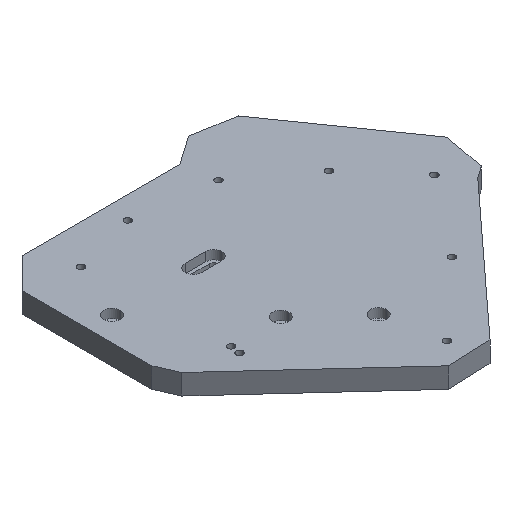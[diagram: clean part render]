
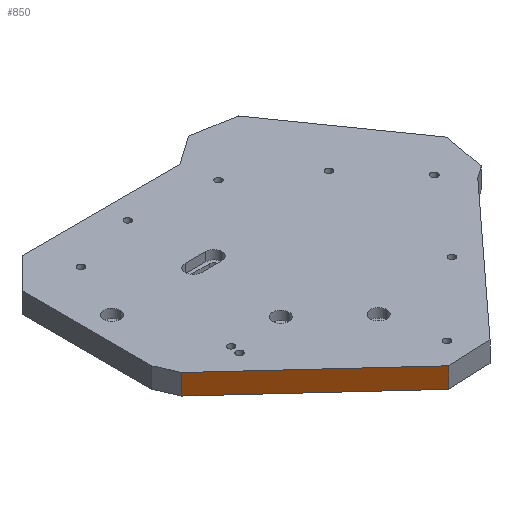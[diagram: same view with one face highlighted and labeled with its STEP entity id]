
A CAD part, isometric view. The second image highlights one B-rep face of the part: STEP entity #850.
In plain terms, the highlighted planar face has unit normal (-0.676, -0.737, 0).
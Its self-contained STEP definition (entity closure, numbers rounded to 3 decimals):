
#15 = VERTEX_POINT ( 'NONE', #461 ) ;
#60 = EDGE_CURVE ( 'NONE', #15, #704, #2336, .T. ) ;
#275 = CARTESIAN_POINT ( 'NONE',  ( -72.457, -27.65, 10. ) ) ;
#339 = AXIS2_PLACEMENT_3D ( 'NONE', #275, #464, #934 ) ;
#461 = CARTESIAN_POINT ( 'NONE',  ( -72.457, -27.65, 10. ) ) ;
#464 = DIRECTION ( 'NONE',  ( 0.676, 0.737, 0. ) ) ;
#477 = ORIENTED_EDGE ( 'NONE', *, *, #1553, .F. ) ;
#535 = VERTEX_POINT ( 'NONE', #2113 ) ;
#542 = VECTOR ( 'NONE', #977, 1000. ) ;
#697 = ORIENTED_EDGE ( 'NONE', *, *, #1324, .T. ) ;
#704 = VERTEX_POINT ( 'NONE', #1741 ) ;
#708 = LINE ( 'NONE', #1391, #2312 ) ;
#718 = FACE_OUTER_BOUND ( 'NONE', #2467, .T. ) ;
#819 = DIRECTION ( 'NONE',  ( 0., 0., -1. ) ) ;
#850 = ADVANCED_FACE ( 'NONE', ( #718 ), #2513, .F. ) ;
#934 = DIRECTION ( 'NONE',  ( -0.737, 0.676, 0. ) ) ;
#977 = DIRECTION ( 'NONE',  ( 0., 0., -1. ) ) ;
#1014 = EDGE_CURVE ( 'NONE', #15, #535, #1201, .T. ) ;
#1201 = LINE ( 'NONE', #2097, #542 ) ;
#1264 = CARTESIAN_POINT ( 'NONE',  ( -4.044, -90.34, 10. ) ) ;
#1299 = VERTEX_POINT ( 'NONE', #2048 ) ;
#1324 = EDGE_CURVE ( 'NONE', #535, #1299, #708, .T. ) ;
#1391 = CARTESIAN_POINT ( 'NONE',  ( -72.457, -27.65, 0. ) ) ;
#1553 = EDGE_CURVE ( 'NONE', #704, #1299, #2560, .T. ) ;
#1741 = CARTESIAN_POINT ( 'NONE',  ( -4.044, -90.34, 10. ) ) ;
#1756 = ORIENTED_EDGE ( 'NONE', *, *, #1014, .T. ) ;
#1886 = CARTESIAN_POINT ( 'NONE',  ( -72.457, -27.65, 10. ) ) ;
#2033 = DIRECTION ( 'NONE',  ( 0.737, -0.676, 0. ) ) ;
#2048 = CARTESIAN_POINT ( 'NONE',  ( -4.044, -90.34, 0. ) ) ;
#2097 = CARTESIAN_POINT ( 'NONE',  ( -72.457, -27.65, 10. ) ) ;
#2113 = CARTESIAN_POINT ( 'NONE',  ( -72.457, -27.65, 0. ) ) ;
#2204 = ORIENTED_EDGE ( 'NONE', *, *, #60, .F. ) ;
#2312 = VECTOR ( 'NONE', #2033, 1000. ) ;
#2336 = LINE ( 'NONE', #1886, #2714 ) ;
#2467 = EDGE_LOOP ( 'NONE', ( #697, #477, #2204, #1756 ) ) ;
#2513 = PLANE ( 'NONE',  #339 ) ;
#2560 = LINE ( 'NONE', #1264, #2893 ) ;
#2714 = VECTOR ( 'NONE', #2795, 1000. ) ;
#2795 = DIRECTION ( 'NONE',  ( 0.737, -0.676, 0. ) ) ;
#2893 = VECTOR ( 'NONE', #819, 1000. ) ;
